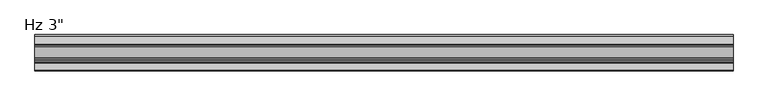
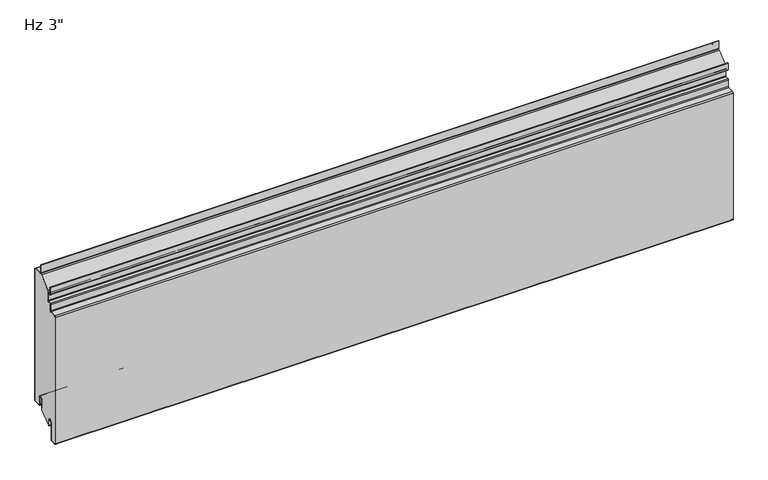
"""IFC4 building model written with IfcOpenShell, lengths in millimetres: plate geometry."""

import ifcopenshell
import ifcopenshell.guid

model = None  # the IFC model being written
_history = None  # IfcOwnerHistory: only IFC2X3 demands one
_inside = {}  # id of a spatial element -> (the spatial element, [elements in it])
_under = {}  # id of a project, library or spatial element -> (it, [spatial elements below it])
_declared = {}  # id of a project -> (the project, [libraries it declares])
_typed = {}  # id of a type object -> (the type object, [elements of that type])
_made_of = {}  # id of a material, layer set ... -> (it, [elements and type objects made of it])


def new_model(schema):
    """Start an empty IFC model of exactly this schema.

    Asked for "IFC4X3", IfcOpenShell would pick the latest addendum, in which some entities
    have other attributes; the version numbers below select the first issue.
    IFC2X3 requires an IfcOwnerHistory on every rooted entity: one is made here for all.
    """
    global model, _history
    if schema == "IFC4X3":
        model = ifcopenshell.file(schema_version=(4, 3, 0, 0))
    else:
        model = ifcopenshell.file(schema=schema)
    _inside.clear()
    _under.clear()
    _declared.clear()
    _typed.clear()
    _made_of.clear()
    _history = None
    if model.schema == "IFC2X3":
        org = make("IfcOrganization", Name="unknown")
        user = make(
            "IfcPersonAndOrganization",
            ThePerson=make("IfcPerson", FamilyName="unknown"),
            TheOrganization=org,
        )
        app = make(
            "IfcApplication",
            ApplicationDeveloper=org,
            Version="unknown",
            ApplicationFullName="unknown",
            ApplicationIdentifier="unknown",
        )
        _history = make(
            "IfcOwnerHistory",
            OwningUser=user,
            OwningApplication=app,
            ChangeAction="ADDED",
            CreationDate=0,
        )
    return model


def make(cls, **values):
    """One entity of the class cls with the attributes given. An attribute that is None is left unset."""
    return model.create_entity(
        cls, **{name: value for name, value in values.items() if value is not None}
    )


def rooted(cls, **values):
    """An entity with a GlobalId (a new one), such as an element, a storey or a relation."""
    return make(cls, GlobalId=ifcopenshell.guid.new(), OwnerHistory=_history, **values)


def si_unit(unit_type, name, prefix=None):
    """IfcSIUnit, for example si_unit("LENGTHUNIT", "METRE", prefix="MILLI")."""
    return make("IfcSIUnit", UnitType=unit_type, Prefix=prefix, Name=name)


def assignment(units):
    """IfcUnitAssignment: the units of a project."""
    return None if units is None else make("IfcUnitAssignment", Units=units)


def point(xyz):
    """IfcCartesianPoint."""
    return None if xyz is None else make("IfcCartesianPoint", Coordinates=xyz)


def direction(xyz):
    """IfcDirection."""
    return None if xyz is None else make("IfcDirection", DirectionRatios=xyz)


def frame(location, z_axis=None, x_axis=None):
    """IfcAxis2Placement3D, a coordinate frame: its origin and axes. An axis left out is left unset."""
    return make(
        "IfcAxis2Placement3D",
        Location=point(location),
        Axis=direction(z_axis),
        RefDirection=direction(x_axis),
    )


def frame_2d(location, x_axis=None):
    """IfcAxis2Placement2D, a coordinate frame in the plane: its origin and x axis."""
    return make(
        "IfcAxis2Placement2D", Location=point(location), RefDirection=direction(x_axis)
    )


def origin():
    """The frame at (0, 0, 0) with its axes left unset."""
    return frame((0.0, 0.0, 0.0))


def place(relative_to, where):
    """IfcLocalPlacement: puts the frame where relative to a parent placement (None: the world)."""
    return make(
        "IfcLocalPlacement", PlacementRelTo=relative_to, RelativePlacement=where
    )


def context(
    kind, dimensions, precision=None, world=None, true_north=None, identifier=None
):
    """IfcGeometricRepresentationContext, for example the 3D "Model" context."""
    return make(
        "IfcGeometricRepresentationContext",
        ContextIdentifier=identifier,
        ContextType=kind,
        CoordinateSpaceDimension=dimensions,
        Precision=precision,
        WorldCoordinateSystem=world,
        TrueNorth=true_north,
    )


def project(units=None, contexts=None):
    """IfcProject with its units and contexts."""
    return rooted(
        "IfcProject",
        Name="project",
        RepresentationContexts=contexts,
        UnitsInContext=assignment(units),
    )


def spatial(cls, under=None, at=None, **own):
    """A site, building, storey or space (cls), placed at a placement, below another one or the project."""
    s = rooted(cls, ObjectPlacement=at, **own)
    if under is not None:
        _under.setdefault(under.id(), (under, []))[1].append(s)
    return s


def polyline(points):
    """IfcPolyline through the points."""
    return make("IfcPolyline", Points=[point(p) for p in points])


def circle_curve(where, radius):
    """IfcCircle in the frame where."""
    return make("IfcCircle", Position=where, Radius=radius)


def ellipse_curve(where, semi_axis1, semi_axis2):
    """IfcEllipse in the frame where."""
    return make(
        "IfcEllipse", Position=where, SemiAxis1=semi_axis1, SemiAxis2=semi_axis2
    )


def trimmed(basis, trim1, trim2, sense, master):
    """IfcTrimmedCurve: the piece of a basis curve between two trims."""
    return make(
        "IfcTrimmedCurve",
        BasisCurve=basis,
        Trim1=trim1,
        Trim2=trim2,
        SenseAgreement=sense,
        MasterRepresentation=master,
    )


def segment(curve, same_sense, transition):
    """IfcCompositeCurveSegment."""
    return make(
        "IfcCompositeCurveSegment",
        Transition=transition,
        SameSense=same_sense,
        ParentCurve=curve,
    )


def composite_curve(segments, self_intersect=None):
    """IfcCompositeCurve: segments joined end to end."""
    return make("IfcCompositeCurve", Segments=segments, SelfIntersect=self_intersect)


def outline(outer, holes=None, kind="AREA"):
    """IfcArbitraryClosedProfileDef: a profile drawn as a closed curve; with holes, ...WithVoids."""
    if holes is None:
        return make("IfcArbitraryClosedProfileDef", ProfileType=kind, OuterCurve=outer)
    return make(
        "IfcArbitraryProfileDefWithVoids",
        ProfileType=kind,
        OuterCurve=outer,
        InnerCurves=holes,
    )


def extrude(swept, where, along, depth):
    """IfcExtrudedAreaSolid: the profile swept, set in the frame where, extruded along a direction by depth."""
    return make(
        "IfcExtrudedAreaSolid",
        SweptArea=swept,
        Position=where,
        ExtrudedDirection=direction(along),
        Depth=depth,
    )


def shape(context_of_items, identifier, shape_type, items):
    """IfcShapeRepresentation: the items that make up one representation, for example the "Body"."""
    return make(
        "IfcShapeRepresentation",
        ContextOfItems=context_of_items,
        RepresentationIdentifier=identifier,
        RepresentationType=shape_type,
        Items=items,
    )


def source(mapping_origin, context_of_items, identifier, shape_type, items):
    """IfcRepresentationMap: a shape defined once, which mapped items show again and again."""
    return make(
        "IfcRepresentationMap",
        MappingOrigin=mapping_origin,
        MappedRepresentation=shape(context_of_items, identifier, shape_type, items),
    )


def transform(
    local_origin,
    x_axis=None,
    y_axis=None,
    z_axis=None,
    scale=None,
    scale2=None,
    scale3=None,
    uniform=True,
):
    """IfcCartesianTransformationOperator3D, or its non-uniform kind. x_axis, y_axis, z_axis: its Axis1, 2, 3."""
    if uniform:
        return make(
            "IfcCartesianTransformationOperator3D",
            Axis1=direction(x_axis),
            Axis2=direction(y_axis),
            LocalOrigin=point(local_origin),
            Scale=scale,
            Axis3=direction(z_axis),
        )
    return make(
        "IfcCartesianTransformationOperator3DnonUniform",
        Axis1=direction(x_axis),
        Axis2=direction(y_axis),
        LocalOrigin=point(local_origin),
        Scale=scale,
        Axis3=direction(z_axis),
        Scale2=scale2,
        Scale3=scale3,
    )


def mapped(mapping_source, mapping_target):
    """IfcMappedItem: shows the shape of a source again, moved by a transform."""
    return make(
        "IfcMappedItem", MappingSource=mapping_source, MappingTarget=mapping_target
    )


def made_of(thing, what):
    """Note that an element or type object is made of a material, layer set ...; save() writes the relation."""
    if what is not None:
        _made_of.setdefault(what.id(), (what, []))[1].append(thing)
    return thing


def element(
    cls,
    number,
    at=None,
    inside=None,
    cuts=None,
    type_object=None,
    material=None,
    context=None,
    identifier="Body",
    shape_type=None,
    held_by="IfcProductDefinitionShape",
    body=None,
    shapes=None,
    **own,
):
    """One element of the class cls, such as IfcWall. Its Tag is "e" and its number.

    at: its placement. inside: the storey or other place that contains it. cuts: it is an
    opening in that element (IfcRelVoidsElement). A single representation is given by context,
    identifier, shape_type and body (its items); several are given by shapes. held_by: the class
    of the entity that holds the representations. save() writes the other relations.
    """
    e = rooted(cls, Tag="e%d" % number, ObjectPlacement=at, **own)
    if body is not None:
        shapes = [shape(context, identifier, shape_type, body)]
    if shapes is not None:
        e.Representation = make(held_by, Representations=shapes)
    if inside is not None:
        _inside.setdefault(inside.id(), (inside, []))[1].append(e)
    if cuts is not None:
        rooted(
            "IfcRelVoidsElement", RelatingBuildingElement=cuts, RelatedOpeningElement=e
        )
    if type_object is not None:
        _typed.setdefault(type_object.id(), (type_object, []))[1].append(e)
    return made_of(e, material)


def aggregate(whole, parts):
    """IfcRelAggregates: a whole, such as a stair, and the parts it consists of."""
    return rooted("IfcRelAggregates", RelatingObject=whole, RelatedObjects=parts)


def save(model, path):
    """Write the relations noted so far, then the file.

    IfcRelAggregates (storeys below a building ...), IfcRelContainedInSpatialStructure (elements
    in a storey), IfcRelDefinesByType, IfcRelAssociatesMaterial and IfcRelDeclares: one each for
    every whole, place, type object, material and project.
    """
    for whole, parts in _under.values():
        aggregate(whole, parts)
    for where, things in _inside.values():
        rooted(
            "IfcRelContainedInSpatialStructure",
            RelatedElements=things,
            RelatingStructure=where,
        )
    for kind, things in _typed.values():
        rooted("IfcRelDefinesByType", RelatedObjects=things, RelatingType=kind)
    for what, things in _made_of.values():
        rooted("IfcRelAssociatesMaterial", RelatedObjects=things, RelatingMaterial=what)
    for by, libraries in _declared.values():
        rooted("IfcRelDeclares", RelatingContext=by, RelatedDefinitions=libraries)
    model.write(path)


def plane_surface(at):
    """IfcPlane: the flat surface through the origin of the frame at, square to its z axis."""
    return make("IfcPlane", Position=at)


def cylinder_surface(at, radius):
    """IfcCylindricalSurface: all points at the distance radius from the z axis of the frame at."""
    return make("IfcCylindricalSurface", Position=at, Radius=radius)


def revolved_surface(curve, axis_point, axis_direction):
    """IfcSurfaceOfRevolution: the curve turned about the line through axis_point along axis_direction."""
    return make(
        "IfcSurfaceOfRevolution",
        SweptCurve=make("IfcArbitraryOpenProfileDef", ProfileType="CURVE", Curve=curve),
        AxisPosition=make("IfcAxis1Placement", Location=point(axis_point), Axis=direction(axis_direction)),
    )


def extruded_surface(curve, direction_of_extrusion, depth):
    """IfcSurfaceOfLinearExtrusion: the curve pushed along a direction by depth."""
    return make(
        "IfcSurfaceOfLinearExtrusion",
        SweptCurve=make("IfcArbitraryOpenProfileDef", ProfileType="CURVE", Curve=curve),
        ExtrudedDirection=direction(direction_of_extrusion),
        Depth=depth,
    )


def advanced_brep(points, edges, surfaces, faces):
    """IfcAdvancedBrep: a solid bounded by faces that lie on surfaces and meet in shared edges.

    An edge is (start, end): straight between two places in points (the first is 0);
    or (start, end, curve); or (start, end, curve, False) where it runs against its curve.
    A face is (place in surfaces, loops), or (place, loops, False) where it looks against
    its surface's normal. A loop lists edges by number (the first is 1), with a minus sign
    where the edge is run from its end to its start. The first loop is the outer one.
    """
    corners = [point(p) for p in points]
    vertices = [make("IfcVertexPoint", VertexGeometry=c) for c in corners]
    made = []
    for start, end, *more in edges:
        made.append(
            make(
                "IfcEdgeCurve",
                EdgeStart=vertices[start],
                EdgeEnd=vertices[end],
                EdgeGeometry=more[0] if more else make("IfcPolyline", Points=[corners[start], corners[end]]),
                SameSense=more[1] if len(more) > 1 else True,
            )
        )
    hull = []
    for where, loops, *sense in faces:
        bounds = []
        for j, loop in enumerate(loops):
            ring = [make("IfcOrientedEdge", EdgeElement=made[abs(k) - 1], Orientation=k > 0) for k in loop]
            bounds.append(
                make(
                    "IfcFaceOuterBound" if j == 0 else "IfcFaceBound",
                    Bound=make("IfcEdgeLoop", EdgeList=ring),
                    Orientation=True,
                )
            )
        hull.append(make("IfcAdvancedFace", Bounds=bounds, FaceSurface=surfaces[where], SameSense=sense[0] if sense else True))
    return make("IfcAdvancedBrep", Outer=make("IfcClosedShell", CfsFaces=hull))


def plate_66907302(model_context):
    return source(origin(), model_context, "Body", "SolidModel", [
        extrude(outline(composite_curve([segment(trimmed(circle_curve(frame_2d((-21.43125, 19.05)), 4.96875), [point((-16.4625, 19.05))], [point((-26.4, 19.05))], True, "CARTESIAN"), True, "CONTINUOUS"), segment(polyline([(-26.4, 19.05), (-26.4, -3.1323422), (-49.2157227, -23.01875), (-50.8, -23.01875), (-50.8, -13.5080174), (-51.59375, -13.5080174), (-51.3875, -11.9205174)]), True, "CONTINUOUS"), segment(trimmed(circle_curve(frame_2d((-56.35625, -11.9205174)), 4.96875), [point((-51.3875, -11.9205174))], [point((-61.325, -11.9205174))], True, "CARTESIAN"), True, "CONTINUOUS"), segment(polyline([(-61.325, -11.9205174), (-61.325, -50.1038221)]), True, "CONTINUOUS"), segment(trimmed(circle_curve(frame_2d((-62.70625, -50.1038221)), 1.38125), [point((-61.325, -50.1038221))], [point((-62.633961, -51.4831791))], False, "CARTESIAN"), True, "CONTINUOUS"), segment(polyline([(-62.633961, -51.4831791), (-73.746461, -52.0655606)]), True, "CONTINUOUS"), segment(trimmed(circle_curve(frame_2d((-73.81875, -50.6862035)), 1.38125), [point((-73.746461, -52.0655606))], [point((-75.2, -50.6862035))], False, "CARTESIAN"), True, "CONTINUOUS"), segment(polyline([(-75.2, -50.6862035), (-75.2, 236.6447607)]), True, "CONTINUOUS"), segment(trimmed(circle_curve(frame_2d((-73.81875, 236.6447607)), 1.38125), [point((-75.2, 236.6447607))], [point((-73.891039, 238.0241177))], False, "CARTESIAN"), True, "CONTINUOUS"), segment(polyline([(-73.891039, 238.0241177), (-60.1895807, 238.7421807)]), True, "CONTINUOUS"), segment(trimmed(circle_curve(frame_2d((-60.325, 241.3261347)), 2.5875), [point((-60.1895807, 238.7421807))], [point((-57.7375, 241.3261347))], True, "CARTESIAN"), True, "CONTINUOUS"), segment(polyline([(-57.7375, 241.3261347), (-57.7375, 255.4824411)]), True, "CONTINUOUS"), segment(trimmed(circle_curve(frame_2d((-56.35625, 255.4824411)), 1.38125), [point((-57.7375, 255.4824411))], [point((-56.428539, 256.8617981))], False, "CARTESIAN"), True, "CONTINUOUS"), segment(polyline([(-56.428539, 256.8617981), (-50.6645807, 257.1638744)]), True, "CONTINUOUS"), segment(trimmed(circle_curve(frame_2d((-50.8, 259.7478283)), 2.5875), [point((-50.6645807, 257.1638744))], [point((-48.2125, 259.7478283))], True, "CARTESIAN"), True, "CONTINUOUS"), segment(polyline([(-48.2125, 259.7478283), (-48.2125, 282.1892934), (-24.9057308, 303.00625), (-2.38125, 303.00625)]), True, "CONTINUOUS"), segment(trimmed(circle_curve(frame_2d((-2.38125, 301.625)), 1.38125), [point((-2.38125, 303.00625))], [point((-1.0, 301.625))], False, "CARTESIAN"), True, "CONTINUOUS"), segment(polyline([(-1.0, 301.625), (-1.0, 3.175)]), True, "CONTINUOUS"), segment(trimmed(circle_curve(frame_2d((-2.38125, 3.175)), 1.38125), [point((-1.0, 3.175))], [point((-2.38125, 1.79375))], False, "CARTESIAN"), True, "CONTINUOUS"), segment(polyline([(-2.38125, 1.79375), (-15.08125, 1.79375)]), True, "CONTINUOUS"), segment(trimmed(circle_curve(frame_2d((-15.08125, 3.175)), 1.38125), [point((-15.08125, 1.79375))], [point((-16.4625, 3.175))], False, "CARTESIAN"), True, "CONTINUOUS"), segment(polyline([(-16.4625, 3.175), (-16.4625, 19.05)]), True, "CONTINUOUS")], self_intersect=False)), frame((-730.0, 0.0, 0.0), z_axis=(1.0, 0.0, 0.0), x_axis=(0.0, 1.0, 0.0)), (0.0, 0.0, 1.0), 1460.0),
        extrude(outline(composite_curve([segment(polyline([(-25.4, 0.79375), (-26.4, 0.79375), (-26.4, 19.05)]), True, "CONTINUOUS"), segment(trimmed(circle_curve(frame_2d((-21.43125, 19.05)), 4.96875), [point((-26.4, 19.05))], [point((-16.4625, 19.05))], False, "CARTESIAN"), True, "CONTINUOUS"), segment(polyline([(-16.4625, 19.05), (-16.4625, 3.175)]), True, "CONTINUOUS"), segment(trimmed(circle_curve(frame_2d((-15.08125, 3.175)), 1.38125), [point((-16.4625, 3.175))], [point((-15.08125, 1.79375))], True, "CARTESIAN"), True, "CONTINUOUS"), segment(polyline([(-15.08125, 1.79375), (-2.38125, 1.79375)]), True, "CONTINUOUS"), segment(trimmed(circle_curve(frame_2d((-2.38125, 3.175)), 1.38125), [point((-2.38125, 1.79375))], [point((-1.0, 3.175))], True, "CARTESIAN"), True, "CONTINUOUS"), segment(polyline([(-1.0, 3.175), (-1.0, 301.625)]), True, "CONTINUOUS"), segment(trimmed(circle_curve(frame_2d((-2.38125, 301.625)), 1.38125), [point((-1.0, 301.625))], [point((-2.38125, 303.00625))], True, "CARTESIAN"), True, "CONTINUOUS"), segment(polyline([(-2.38125, 303.00625), (-19.446875, 303.00625)]), True, "CONTINUOUS"), segment(trimmed(circle_curve(frame_2d((-19.446875, 305.59375)), 2.5875), [point((-19.446875, 303.00625))], [point((-22.034375, 305.59375))], False, "CARTESIAN"), True, "CONTINUOUS"), segment(polyline([(-22.034375, 305.59375), (-22.034375, 323.05625), (-21.034375, 323.05625), (-21.034375, 305.59375)]), True, "CONTINUOUS"), segment(trimmed(circle_curve(frame_2d((-19.446875, 305.59375)), 1.5875), [point((-21.034375, 305.59375))], [point((-19.446875, 304.00625))], True, "CARTESIAN"), True, "CONTINUOUS"), segment(polyline([(-19.446875, 304.00625), (-2.38125, 304.00625)]), True, "CONTINUOUS"), segment(trimmed(circle_curve(frame_2d((-2.38125, 301.625)), 2.38125), [point((-2.38125, 304.00625))], [point((0.0, 301.625))], False, "CARTESIAN"), True, "CONTINUOUS"), segment(polyline([(0.0, 301.625), (0.0, 3.175)]), True, "CONTINUOUS"), segment(trimmed(circle_curve(frame_2d((-2.38125, 3.175)), 2.38125), [point((0.0, 3.175))], [point((-2.38125, 0.79375))], False, "CARTESIAN"), True, "CONTINUOUS"), segment(polyline([(-2.38125, 0.79375), (-15.08125, 0.79375)]), True, "CONTINUOUS"), segment(trimmed(circle_curve(frame_2d((-15.08125, 3.175)), 2.38125), [point((-15.08125, 0.79375))], [point((-17.4625, 3.175))], False, "CARTESIAN"), True, "CONTINUOUS"), segment(polyline([(-17.4625, 3.175), (-17.4625, 19.05)]), True, "CONTINUOUS"), segment(trimmed(circle_curve(frame_2d((-21.43125, 19.05)), 3.96875), [point((-17.4625, 19.05))], [point((-25.4, 19.05))], True, "CARTESIAN"), True, "CONTINUOUS"), segment(polyline([(-25.4, 19.05), (-25.4, 0.79375)]), True, "CONTINUOUS")], self_intersect=False)), frame((-730.0, 0.0, 0.0), z_axis=(1.0, 0.0, 0.0), x_axis=(0.0, 1.0, 0.0)), (0.0, 0.0, 1.0), 1460.0),
        advanced_brep(
        [(-730.0, -50.8, -23.2314549), (-730.0, -52.3875, -23.2314549), (-730.0, -52.3875, -11.9205174), (-730.0, -60.325, -11.9205174), (-730.0, -60.325, -50.1038221), (-730.0, -62.581625, -52.4818086), (-730.0, -73.694125, -53.0641901), (-730.0, -76.2, -50.6862035), (-730.0, -76.2, 236.6447607), (-730.0, -73.943375, 239.0227473), (-730.0, -60.2419167, 239.7408103), (-730.0, -58.7375, 241.3261347), (-730.0, -58.7375, 255.4824411), (-730.0, -56.480875, 257.8604276), (-730.0, -50.7169167, 258.1625039), (-730.0, -49.2125, 259.7478283), (-730.0, -49.2125, 274.6232326), (-730.0, -50.8, 276.2107326), (-730.0, -54.9671875, 276.2107326), (-730.0, -57.3484375, 278.5919826), (-730.0, -57.3484375, 293.0836032), (-730.0, -55.5546875, 293.0836032), (-730.0, -55.5546875, 283.3544826), (-730.0, -56.3484375, 283.3544826), (-730.0, -56.3484375, 278.5919826), (-730.0, -54.9671875, 277.2107326), (-730.0, -50.8, 277.2107326), (-730.0, -48.2125, 274.6232326), (-730.0, -48.2125, 259.7478283), (-730.0, -50.6645807, 257.1638744), (-730.0, -56.428539, 256.8617981), (-730.0, -57.7375, 255.4824411), (-730.0, -57.7375, 241.3261347), (-730.0, -60.1895807, 238.7421807), (-730.0, -73.891039, 238.0241177), (-730.0, -75.2, 236.6447607), (-730.0, -75.2, -50.6862035), (-730.0, -73.746461, -52.0655606), (-730.0, -62.633961, -51.4831791), (-730.0, -61.325, -50.1038221), (-730.0, -61.325, -11.9205174), (-730.0, -51.3875, -11.9205174), (-730.0, -51.59375, -13.5080174), (-730.0, -50.8, -13.5080174), (730.0, -50.8, -23.2314549), (730.0, -50.8, -13.5080174), (730.0, -51.59375, -13.5080174), (730.0, -51.3875, -11.9205174), (730.0, -61.325, -11.9205174), (730.0, -61.325, -50.1038221), (730.0, -62.633961, -51.4831791), (730.0, -73.746461, -52.0655606), (730.0, -75.2, -50.6862035), (730.0, -75.2, 236.6447607), (730.0, -73.891039, 238.0241177), (730.0, -60.1895807, 238.7421807), (730.0, -57.7375, 241.3261347), (730.0, -57.7375, 255.4824411), (730.0, -56.428539, 256.8617981), (730.0, -50.6645807, 257.1638744), (730.0, -48.2125, 259.7478283), (730.0, -48.2125, 274.6232326), (730.0, -50.8, 277.2107326), (730.0, -54.9671875, 277.2107326), (730.0, -56.3484375, 278.5919826), (730.0, -56.3484375, 283.3544826), (730.0, -55.5546875, 283.3544826), (730.0, -55.5546875, 293.0836032), (730.0, -57.3484375, 293.0836032), (730.0, -57.3484375, 278.5919826), (730.0, -54.9671875, 276.2107326), (730.0, -50.8, 276.2107326), (730.0, -49.2125, 274.6232326), (730.0, -49.2125, 259.7478283), (730.0, -50.7169167, 258.1625039), (730.0, -56.480875, 257.8604276), (730.0, -58.7375, 255.4824411), (730.0, -58.7375, 241.3261347), (730.0, -60.2419167, 239.7408103), (730.0, -73.943375, 239.0227473), (730.0, -76.2, 236.6447607), (730.0, -76.2, -50.6862035), (730.0, -73.694125, -53.0641901), (730.0, -62.581625, -52.4818086), (730.0, -60.325, -50.1038221), (730.0, -60.325, -11.9205174), (730.0, -52.3875, -11.9205174), (730.0, -52.3875, -23.2314549)],
        [
            (0, 1, circle_curve(frame((-730.0, -51.59375, -23.2314549), z_axis=(-1.0, 0.0, 0.0), x_axis=(0.0, 0.0, -1.0)), 0.79375)),
            (1, 2),
            (2, 3, circle_curve(frame((-730.0, -56.35625, -11.9205174), z_axis=(1.0, 0.0, 0.0), x_axis=(0.0, 0.0, -1.0)), 3.96875)),
            (3, 4),
            (4, 5, circle_curve(frame((-730.0, -62.70625, -50.1038221), z_axis=(-1.0, 0.0, 0.0), x_axis=(0.0, 0.0, -1.0)), 2.38125)),
            (5, 6),
            (6, 7, circle_curve(frame((-730.0, -73.81875, -50.6862035), z_axis=(-1.0, 0.0, 0.0), x_axis=(0.0, 0.0, -1.0)), 2.38125)),
            (7, 8),
            (8, 9, circle_curve(frame((-730.0, -73.81875, 236.6447607), z_axis=(-1.0, 0.0, 0.0), x_axis=(0.0, 0.0, -1.0)), 2.38125)),
            (9, 10),
            (10, 11, circle_curve(frame((-730.0, -60.325, 241.3261347), z_axis=(1.0, 0.0, 0.0), x_axis=(0.0, 0.0, -1.0)), 1.5875)),
            (11, 12),
            (12, 13, circle_curve(frame((-730.0, -56.35625, 255.4824411), z_axis=(-1.0, 0.0, 0.0), x_axis=(0.0, 0.0, -1.0)), 2.38125)),
            (13, 14),
            (14, 15, circle_curve(frame((-730.0, -50.8, 259.7478283), z_axis=(1.0, 0.0, 0.0), x_axis=(0.0, 0.0, -1.0)), 1.5875)),
            (15, 16),
            (16, 17, circle_curve(frame((-730.0, -50.8, 274.6232326), z_axis=(1.0, 0.0, 0.0), x_axis=(0.0, 0.0, -1.0)), 1.5875)),
            (17, 18),
            (18, 19, circle_curve(frame((-730.0, -54.9671875, 278.5919826), z_axis=(-1.0, 0.0, 0.0), x_axis=(0.0, 0.0, -1.0)), 2.38125)),
            (19, 20),
            (20, 21, ellipse_curve(frame((-730.0, -56.4515625, 293.0836032), z_axis=(-1.0, 0.0, 0.0), x_axis=(0.0, 1.0, 0.0)), 0.896875, 0.7852275)),
            (21, 22),
            (22, 23),
            (23, 24),
            (24, 25, circle_curve(frame((-730.0, -54.9671875, 278.5919826), z_axis=(1.0, 0.0, 0.0), x_axis=(0.0, 0.0, -1.0)), 1.38125)),
            (25, 26),
            (26, 27, circle_curve(frame((-730.0, -50.8, 274.6232326), z_axis=(-1.0, 0.0, 0.0), x_axis=(0.0, 0.0, -1.0)), 2.5875)),
            (27, 28),
            (28, 29, circle_curve(frame((-730.0, -50.8, 259.7478283), z_axis=(-1.0, 0.0, 0.0), x_axis=(0.0, 0.0, -1.0)), 2.5875)),
            (29, 30),
            (30, 31, circle_curve(frame((-730.0, -56.35625, 255.4824411), z_axis=(1.0, 0.0, 0.0), x_axis=(0.0, 0.0, -1.0)), 1.38125)),
            (31, 32),
            (32, 33, circle_curve(frame((-730.0, -60.325, 241.3261347), z_axis=(-1.0, 0.0, 0.0), x_axis=(0.0, 0.0, -1.0)), 2.5875)),
            (33, 34),
            (34, 35, circle_curve(frame((-730.0, -73.81875, 236.6447607), z_axis=(1.0, 0.0, 0.0), x_axis=(0.0, 0.0, -1.0)), 1.38125)),
            (35, 36),
            (36, 37, circle_curve(frame((-730.0, -73.81875, -50.6862035), z_axis=(1.0, 0.0, 0.0), x_axis=(0.0, 0.0, -1.0)), 1.38125)),
            (37, 38),
            (38, 39, circle_curve(frame((-730.0, -62.70625, -50.1038221), z_axis=(1.0, 0.0, 0.0), x_axis=(0.0, 0.0, -1.0)), 1.38125)),
            (39, 40),
            (40, 41, circle_curve(frame((-730.0, -56.35625, -11.9205174), z_axis=(-1.0, 0.0, 0.0), x_axis=(0.0, 0.0, -1.0)), 4.96875)),
            (41, 42),
            (42, 43),
            (43, 0),
            (44, 45),
            (45, 46),
            (46, 47),
            (47, 48, circle_curve(frame((730.0, -56.35625, -11.9205174), z_axis=(1.0, 0.0, 0.0), x_axis=(0.0, 0.0, -1.0)), 4.96875)),
            (48, 49),
            (49, 50, circle_curve(frame((730.0, -62.70625, -50.1038221), z_axis=(-1.0, 0.0, 0.0), x_axis=(0.0, 0.0, -1.0)), 1.38125)),
            (50, 51),
            (51, 52, circle_curve(frame((730.0, -73.81875, -50.6862035), z_axis=(-1.0, 0.0, 0.0), x_axis=(0.0, 0.0, -1.0)), 1.38125)),
            (52, 53),
            (53, 54, circle_curve(frame((730.0, -73.81875, 236.6447607), z_axis=(-1.0, 0.0, 0.0), x_axis=(0.0, 0.0, -1.0)), 1.38125)),
            (54, 55),
            (55, 56, circle_curve(frame((730.0, -60.325, 241.3261347), z_axis=(1.0, 0.0, 0.0), x_axis=(0.0, 0.0, -1.0)), 2.5875)),
            (56, 57),
            (57, 58, circle_curve(frame((730.0, -56.35625, 255.4824411), z_axis=(-1.0, 0.0, 0.0), x_axis=(0.0, 0.0, -1.0)), 1.38125)),
            (58, 59),
            (59, 60, circle_curve(frame((730.0, -50.8, 259.7478283), z_axis=(1.0, 0.0, 0.0), x_axis=(0.0, 0.0, -1.0)), 2.5875)),
            (60, 61),
            (61, 62, circle_curve(frame((730.0, -50.8, 274.6232326), z_axis=(1.0, 0.0, 0.0), x_axis=(0.0, 0.0, -1.0)), 2.5875)),
            (62, 63),
            (63, 64, circle_curve(frame((730.0, -54.9671875, 278.5919826), z_axis=(-1.0, 0.0, 0.0), x_axis=(0.0, 0.0, -1.0)), 1.38125)),
            (64, 65),
            (65, 66),
            (66, 67),
            (67, 68, ellipse_curve(frame((730.0, -56.4515625, 293.0836032), z_axis=(1.0, 0.0, 0.0), x_axis=(0.0, 1.0, 0.0)), 0.896875, 0.7852275)),
            (68, 69),
            (69, 70, circle_curve(frame((730.0, -54.9671875, 278.5919826), z_axis=(1.0, 0.0, 0.0), x_axis=(0.0, 0.0, -1.0)), 2.38125)),
            (70, 71),
            (71, 72, circle_curve(frame((730.0, -50.8, 274.6232326), z_axis=(-1.0, 0.0, 0.0), x_axis=(0.0, 0.0, -1.0)), 1.5875)),
            (72, 73),
            (73, 74, circle_curve(frame((730.0, -50.8, 259.7478283), z_axis=(-1.0, 0.0, 0.0), x_axis=(0.0, 0.0, -1.0)), 1.5875)),
            (74, 75),
            (75, 76, circle_curve(frame((730.0, -56.35625, 255.4824411), z_axis=(1.0, 0.0, 0.0), x_axis=(0.0, 0.0, -1.0)), 2.38125)),
            (76, 77),
            (77, 78, circle_curve(frame((730.0, -60.325, 241.3261347), z_axis=(-1.0, 0.0, 0.0), x_axis=(0.0, 0.0, -1.0)), 1.5875)),
            (78, 79),
            (79, 80, circle_curve(frame((730.0, -73.81875, 236.6447607), z_axis=(1.0, 0.0, 0.0), x_axis=(0.0, 0.0, -1.0)), 2.38125)),
            (80, 81),
            (81, 82, circle_curve(frame((730.0, -73.81875, -50.6862035), z_axis=(1.0, 0.0, 0.0), x_axis=(0.0, 0.0, -1.0)), 2.38125)),
            (82, 83),
            (83, 84, circle_curve(frame((730.0, -62.70625, -50.1038221), z_axis=(1.0, 0.0, 0.0), x_axis=(0.0, 0.0, -1.0)), 2.38125)),
            (84, 85),
            (85, 86, circle_curve(frame((730.0, -56.35625, -11.9205174), z_axis=(-1.0, 0.0, 0.0), x_axis=(0.0, 0.0, -1.0)), 3.96875)),
            (86, 87),
            (87, 44, circle_curve(frame((730.0, -51.59375, -23.2314549), z_axis=(1.0, 0.0, 0.0), x_axis=(0.0, 0.0, -1.0)), 0.79375)),
            (36, 52),
            (51, 37),
            (50, 38),
            (49, 39),
            (48, 40),
            (47, 41),
            (42, 46),
            (45, 43),
            (22, 66),
            (65, 23),
            (21, 67),
            (20, 68),
            (34, 54),
            (53, 35),
            (32, 56),
            (55, 33),
            (30, 58),
            (57, 31),
            (28, 60),
            (59, 29),
            (24, 64),
            (63, 25),
            (26, 62),
            (61, 27),
            (19, 69),
            (17, 71),
            (70, 18),
            (15, 73),
            (72, 16),
            (13, 75),
            (74, 14),
            (11, 77),
            (76, 12),
            (9, 79),
            (78, 10),
            (7, 81),
            (80, 8),
            (5, 83),
            (82, 6),
            (3, 85),
            (84, 4),
            (1, 87),
            (86, 2),
            (44, 0),
        ],
        [
            plane_surface(frame((-730.0, -76.2, 152.4), z_axis=(-1.0, 0.0, 0.0), x_axis=(0.0, -1.0, 0.0))),
            plane_surface(frame((730.0, -76.2, 152.4), z_axis=(1.0, 0.0, 0.0), x_axis=(0.0, -1.0, 0.0))),
            revolved_surface(polyline([(730.0, -73.81875, -52.0674535), (-730.0, -73.81875, -52.0674535)]), (-730.0, -73.81875, -50.6862035), (1.0, 0.0, 0.0)),
            plane_surface(frame((-730.0, -62.633961, -51.4831791), z_axis=(0.0, -0.05233595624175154, 0.9986295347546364), x_axis=(1.0, 0.0, 0.0))),
            revolved_surface(polyline([(730.0, -62.70625, -51.485072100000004), (-730.0, -62.70625, -51.485072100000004)]), (-730.0, -62.70625, -50.1038221), (1.0, 0.0, 0.0)),
            plane_surface(frame((-730.0, -61.325, -11.9205174), z_axis=(0.0, -1.0, 0.0), x_axis=(1.0, 0.0, 0.0))),
            cylinder_surface(frame((-730.0, -56.35625, -11.9205174), z_axis=(-1.0, 0.0, 0.0), x_axis=(0.0, 0.0, -1.0)), 4.96875),
            plane_surface(frame((-730.0, -50.8, -13.5080174), z_axis=(0.0, 0.0, 1.0), x_axis=(1.0, 0.0, 0.0))),
            plane_surface(frame((-730.0, -51.59375, -13.5080174), z_axis=(0.0, 0.9916655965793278, -0.12883844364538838), x_axis=(1.0, 0.0, 0.0))),
            plane_surface(frame((-730.0, -56.3484375, 283.3544826), z_axis=(0.0, 0.0, -1.0), x_axis=(1.0, 0.0, 0.0))),
            plane_surface(frame((-730.0, -55.5546875, 283.3544826), z_axis=(0.0, 1.0, 0.0), x_axis=(1.0, 0.0, 0.0))),
            extruded_surface(trimmed(ellipse_curve(frame((-730.0, -56.4515625, 293.0836032), z_axis=(1.0, 0.0, 0.0), x_axis=(0.0, 1.0, 0.0)), 0.896875, 0.7852275), [point((-730.0, -55.5546875, 293.0836032))], [point((-730.0, -57.3484375, 293.0836032))], True, "CARTESIAN"), (1460.0, 0.0, 0.0), 1460.0),
            revolved_surface(polyline([(730.0, -73.81875, 235.2635107), (-730.0, -73.81875, 235.2635107)]), (-730.0, -73.81875, 236.6447607), (1.0, 0.0, 0.0)),
            cylinder_surface(frame((-730.0, -60.325, 241.3261347), z_axis=(-1.0, 0.0, 0.0), x_axis=(0.0, 0.0, -1.0)), 2.5875),
            plane_surface(frame((-730.0, -73.891039, 238.0241177), z_axis=(0.0, 0.05233595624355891, -0.9986295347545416), x_axis=(1.0, 0.0, 0.0))),
            plane_surface(frame((-730.0, -75.2, -50.6862035), z_axis=(0.0, 1.0, 0.0), x_axis=(1.0, 0.0, 0.0))),
            revolved_surface(polyline([(730.0, -56.35625, 254.1011911), (-730.0, -56.35625, 254.1011911)]), (-730.0, -56.35625, 255.4824411), (1.0, 0.0, 0.0)),
            cylinder_surface(frame((-730.0, -50.8, 259.7478283), z_axis=(-1.0, 0.0, 0.0), x_axis=(0.0, 0.0, -1.0)), 2.5875),
            plane_surface(frame((-730.0, -56.428539, 256.8617981), z_axis=(0.0, 0.052335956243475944, -0.9986295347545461), x_axis=(1.0, 0.0, 0.0))),
            plane_surface(frame((-730.0, -57.7375, 241.3261347), z_axis=(0.0, 1.0, 0.0), x_axis=(1.0, 0.0, 0.0))),
            revolved_surface(polyline([(730.0, -54.9671875, 277.2107326), (-730.0, -54.9671875, 277.2107326)]), (-730.0, -54.9671875, 278.5919826), (1.0, 0.0, 0.0)),
            cylinder_surface(frame((-730.0, -50.8, 274.6232326), z_axis=(-1.0, 0.0, 0.0), x_axis=(0.0, 0.0, -1.0)), 2.5875),
            plane_surface(frame((-730.0, -50.8, 277.2107326), z_axis=(0.0, 0.0, 1.0), x_axis=(1.0, 0.0, 0.0))),
            plane_surface(frame((-730.0, -56.3484375, 278.5919826), z_axis=(0.0, 1.0, 0.0), x_axis=(1.0, 0.0, 0.0))),
            plane_surface(frame((-730.0, -57.3484375, 293.0836032), z_axis=(0.0, -1.0, 0.0), x_axis=(1.0, 0.0, 0.0))),
            plane_surface(frame((-730.0, -54.9671875, 276.2107326), z_axis=(0.0, 0.0, -1.0), x_axis=(1.0, 0.0, 0.0))),
            cylinder_surface(frame((-730.0, -54.9671875, 278.5919826), z_axis=(-1.0, 0.0, 0.0), x_axis=(0.0, 0.0, -1.0)), 2.38125),
            plane_surface(frame((-730.0, -48.2125, 259.7478283), z_axis=(0.0, 1.0, 0.0), x_axis=(1.0, 0.0, 0.0))),
            plane_surface(frame((-730.0, -49.2125, 274.6232326), z_axis=(0.0, -1.0, 0.0), x_axis=(1.0, 0.0, 0.0))),
            plane_surface(frame((-730.0, -50.7169167, 258.1625039), z_axis=(0.0, -0.05233595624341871, 0.9986295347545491), x_axis=(1.0, 0.0, 0.0))),
            revolved_surface(polyline([(730.0, -50.8, 258.1603283), (-730.0, -50.8, 258.1603283)]), (-730.0, -50.8, 259.7478283), (1.0, 0.0, 0.0)),
            revolved_surface(polyline([(730.0, -50.8, 273.0357326), (-730.0, -50.8, 273.0357326)]), (-730.0, -50.8, 274.6232326), (1.0, 0.0, 0.0)),
            plane_surface(frame((-730.0, -58.7375, 255.4824411), z_axis=(0.0, -1.0, 0.0), x_axis=(1.0, 0.0, 0.0))),
            plane_surface(frame((-730.0, -60.2419167, 239.7408103), z_axis=(0.0, -0.05233595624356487, 0.9986295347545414), x_axis=(1.0, 0.0, 0.0))),
            revolved_surface(polyline([(730.0, -60.325, 239.7386347), (-730.0, -60.325, 239.7386347)]), (-730.0, -60.325, 241.3261347), (1.0, 0.0, 0.0)),
            cylinder_surface(frame((-730.0, -56.35625, 255.4824411), z_axis=(-1.0, 0.0, 0.0), x_axis=(0.0, 0.0, -1.0)), 2.38125),
            plane_surface(frame((-730.0, -76.2, 236.6447607), z_axis=(0.0, -1.0, 0.0), x_axis=(1.0, 0.0, 0.0))),
            plane_surface(frame((-730.0, -73.694125, -53.0641901), z_axis=(0.0, 0.05233595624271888, -0.9986295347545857), x_axis=(1.0, 0.0, 0.0))),
            cylinder_surface(frame((-730.0, -73.81875, -50.6862035), z_axis=(-1.0, 0.0, 0.0), x_axis=(0.0, 0.0, -1.0)), 2.38125),
            cylinder_surface(frame((-730.0, -73.81875, 236.6447607), z_axis=(-1.0, 0.0, 0.0), x_axis=(0.0, 0.0, -1.0)), 2.38125),
            plane_surface(frame((-730.0, -60.325, -50.1038221), z_axis=(0.0, 1.0, 0.0), x_axis=(1.0, 0.0, 0.0))),
            plane_surface(frame((-730.0, -52.3875, -11.9205174), z_axis=(0.0, -1.0, 0.0), x_axis=(1.0, 0.0, 0.0))),
            revolved_surface(polyline([(730.0, -56.35625, -15.8892674), (-730.0, -56.35625, -15.8892674)]), (-730.0, -56.35625, -11.9205174), (1.0, 0.0, 0.0)),
            cylinder_surface(frame((-730.0, -62.70625, -50.1038221), z_axis=(-1.0, 0.0, 0.0), x_axis=(0.0, 0.0, -1.0)), 2.38125),
            plane_surface(frame((-730.0, -50.8, -23.2314549), z_axis=(0.0, 1.0, 0.0), x_axis=(1.0, 0.0, 0.0))),
            cylinder_surface(frame((-730.0, -51.59375, -23.2314549), z_axis=(-1.0, 0.0, 0.0), x_axis=(0.0, 0.0, -1.0)), 0.79375),
        ],
        [
            (0, [[1, 2, 3, 4, 5, 6, 7, 8, 9, 10, 11, 12, 13, 14, 15, 16, 17, 18, 19, 20, 21, 22, 23, 24, 25, 26, 27, 28, 29, 30, 31, 32, 33, 34, 35, 36, 37, 38, 39, 40, 41, 42, 43, 44]]),
            (1, [[45, 46, 47, 48, 49, 50, 51, 52, 53, 54, 55, 56, 57, 58, 59, 60, 61, 62, 63, 64, 65, 66, 67, 68, 69, 70, 71, 72, 73, 74, 75, 76, 77, 78, 79, 80, 81, 82, 83, 84, 85, 86, 87, 88]]),
            (2, [[89, -52, 90, -37]]),
            (3, [[-90, -51, 91, -38]]),
            (4, [[-91, -50, 92, -39]]),
            (5, [[-92, -49, 93, -40]]),
            (6, [[-93, -48, 94, -41]]),
            (7, [[95, -46, 96, -43]]),
            (8, [[-94, -47, -95, -42]]),
            (9, [[97, -66, 98, -23]]),
            (10, [[99, -67, -97, -22]]),
            (11, [[100, -68, -99, -21]]),
            (12, [[101, -54, 102, -35]]),
            (13, [[103, -56, 104, -33]]),
            (14, [[-104, -55, -101, -34]]),
            (15, [[-102, -53, -89, -36]]),
            (16, [[105, -58, 106, -31]]),
            (17, [[107, -60, 108, -29]]),
            (18, [[-108, -59, -105, -30]]),
            (19, [[-106, -57, -103, -32]]),
            (20, [[109, -64, 110, -25]]),
            (21, [[111, -62, 112, -27]]),
            (22, [[-110, -63, -111, -26]]),
            (23, [[-98, -65, -109, -24]]),
            (24, [[113, -69, -100, -20]]),
            (25, [[114, -71, 115, -18]]),
            (26, [[-115, -70, -113, -19]]),
            (27, [[-112, -61, -107, -28]]),
            (28, [[116, -73, 117, -16]]),
            (29, [[118, -75, 119, -14]]),
            (30, [[-119, -74, -116, -15]]),
            (31, [[-117, -72, -114, -17]]),
            (32, [[120, -77, 121, -12]]),
            (33, [[122, -79, 123, -10]]),
            (34, [[-123, -78, -120, -11]]),
            (35, [[-121, -76, -118, -13]]),
            (36, [[124, -81, 125, -8]]),
            (37, [[126, -83, 127, -6]]),
            (38, [[-127, -82, -124, -7]]),
            (39, [[-125, -80, -122, -9]]),
            (40, [[128, -85, 129, -4]]),
            (41, [[130, -87, 131, -2]]),
            (42, [[-131, -86, -128, -3]]),
            (43, [[-129, -84, -126, -5]]),
            (44, [[-96, -45, 132, -44]]),
            (45, [[-132, -88, -130, -1]]),
        ],
    ),
    ])


if __name__ == "__main__":
    model = new_model("IFC4")
    model_context = context("Model", 3, world=origin())
    ifc_project = project(units=[si_unit("LENGTHUNIT", "METRE", prefix="MILLI")], contexts=[model_context])
    site = spatial("IfcSite", under=ifc_project)
    building = spatial("IfcBuilding", under=site)
    placement = place(None, origin())
    plate_shape = plate_66907302(model_context)
    element("IfcPlate", 1, ObjectType="KIP-12-DWHR-R19-CP-Hz-F : Hz 3\"", at=placement, inside=building, context=model_context, shape_type="MappedRepresentation", body=[
        mapped(plate_shape, transform((0.0, 0.0, 0.0), x_axis=(1.0, 0.0, 0.0), y_axis=(0.0, 1.0, 0.0), z_axis=(0.0, 0.0, 1.0))),
    ])
    save(model, "model.ifc")
